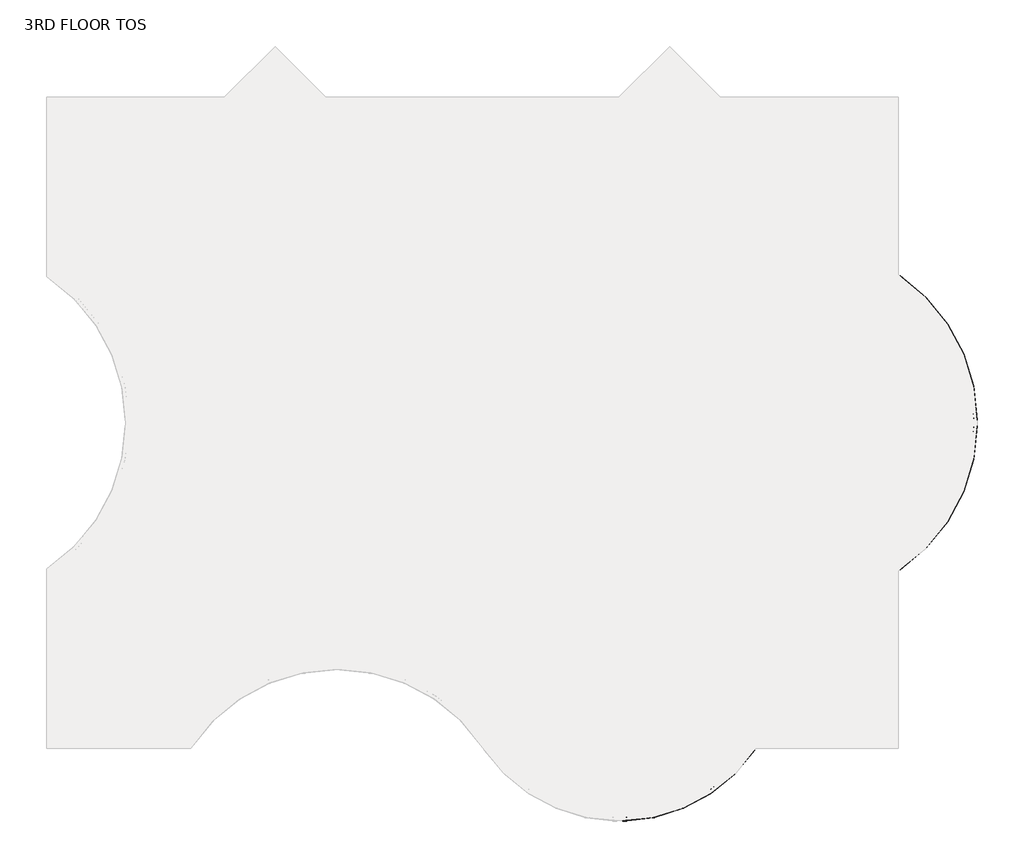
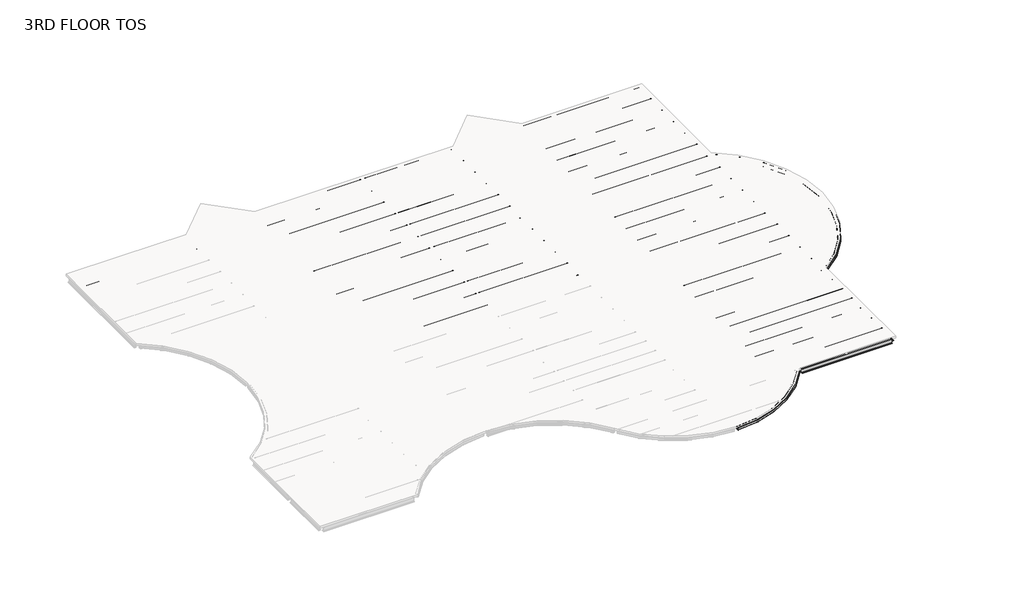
# One storey, part 2 of 2: 110 beams.
"""IFC4 building model written with IfcOpenShell, lengths in millimetres."""

from ifc_helpers import new_model, si_unit, origin, place, context, project, spatial, transform, mapped, element, save
from components import m_hss_square_hss203_2x203_2x9_5_28e91a4e, m_hss_square_hss203_2x203_2x9_5_f31329aa, m_hss_square_hss203_2x203_2x9_5_63507dff, ub_universal_beams_ub254x102x28_7812688d, ub_universal_beams_ub254x102x28_4a38c177, ub_universal_beams_ub305x165x40_c4d0385b, ub_universal_beams_ub305x165x40_19965e16, ub_universal_beams_ub305x165x40_d3abc31d, ub_universal_beams_ub305x165x40_0c73730f, ub_universal_beams_ub305x165x40_2a963f0c, ub_universal_beams_ub305x165x40_9ce7f2ee, ub_universal_beams_ub305x165x40_d184adfd, ub_universal_beams_ub305x165x40_bc7dc938, ub_universal_beams_ub305x165x40_b4233d25, ub_universal_beams_ub356x171x51_c708c058, ub_universal_beams_ub356x171x51_ef72dcdd, ub_universal_beams_ub356x171x51_10b3c54f, ub_universal_beams_ub356x171x51_4c9fd821, ub_universal_beams_ub356x171x51_d1a87c3c, ub_universal_beams_ub356x171x51_fa75724b, ub_universal_beams_ub356x171x51_68db896e, ub_universal_beams_ub356x171x51_c634c4a6, ub_universal_beams_ub356x171x51_995f1560, ub_universal_beams_ub356x171x51_dfc36663, ub_universal_beams_ub356x171x51_11d6b780, ub_universal_beams_ub356x171x51_76b2d20b, ub_universal_beams_ub356x171x51_145ecd4b, ub_universal_beams_ub356x171x51_c7dff8d2, ub_universal_beams_ub356x171x51_8a345439, ub_universal_beams_ub356x171x51_6da510e9, ub_universal_beams_ub356x171x51_e97f8d2e, ub_universal_beams_ub356x171x51_a38b99de, ub_universal_beams_ub356x171x51_d8f4cdde, ub_universal_beams_ub356x171x51_475301e6, ub_universal_beams_ub356x171x51_c03c70fb, ub_universal_beams_ub356x171x51_741bae58

model = new_model("IFC4")

# Units and contexts
model_context = context("Model", 3, world=origin())
ifc_project = project(units=[si_unit("LENGTHUNIT", "METRE", prefix="MILLI")], contexts=[model_context])

# Site, building, storey
site = spatial("IfcSite", under=ifc_project)
building = spatial("IfcBuilding", under=site)
storey = spatial("IfcBuildingStorey", under=building, Name="3RD FLOOR TOS", Elevation=13563.6)

# Beams
placement = place(None, origin())
m_hss_square_hss203_2x203_2x9_5_shape = m_hss_square_hss203_2x203_2x9_5_28e91a4e(model_context)
element("IfcBeam", 1, ObjectType="M_HSS Square : HSS203.2X203.2X9.5", at=placement, inside=storey, context=model_context, shape_type="MappedRepresentation", body=[
    mapped(m_hss_square_hss203_2x203_2x9_5_shape, transform((44027.575, 24539.575, 13462.1), x_axis=(0.8332810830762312, -0.5528495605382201, 0.0), y_axis=(0.5528495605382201, 0.8332810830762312, 0.0), z_axis=(0.0, 0.0, 1.0))),
])
m_hss_square_hss203_2x203_2x9_5_2_shape = m_hss_square_hss203_2x203_2x9_5_f31329aa(model_context)
element("IfcBeam", 2, ObjectType="M_HSS Square : HSS203.2X203.2X9.5", at=placement, inside=storey, context=model_context, shape_type="MappedRepresentation", body=[
    mapped(m_hss_square_hss203_2x203_2x9_5_2_shape, transform((44027.575, 9299.575, 13462.1), x_axis=(0.8332810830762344, 0.5528495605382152, 0.0), y_axis=(-0.5528495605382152, 0.8332810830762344, 0.0), z_axis=(0.0, 0.0, 1.0))),
])
m_hss_square_hss203_2x203_2x9_5_3_shape = m_hss_square_hss203_2x203_2x9_5_63507dff(model_context)
element("IfcBeam", 3, ObjectType="M_HSS Square : HSS203.2X203.2X9.5", at=placement, inside=storey, context=model_context, shape_type="MappedRepresentation", body=[
    mapped(m_hss_square_hss203_2x203_2x9_5_3_shape, transform((36716.575, 155.575, 13462.1), x_axis=(-0.5530174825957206, -0.8331696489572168, 0.0), y_axis=(0.8331696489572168, -0.5530174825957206, 0.0), z_axis=(0.0, 0.0, 1.0))),
])
ub_universal_beams_ub254x102x28_shape = ub_universal_beams_ub254x102x28_7812688d(model_context)
element("IfcBeam", 4, ObjectType="UB-Universal Beams : UB254x102x28", at=placement, inside=storey, context=model_context, shape_type="MappedRepresentation", body=[
    mapped(ub_universal_beams_ub254x102x28_shape, transform((10592.575, 34976.575, 13433.4), x_axis=(0.7071067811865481, 0.7071067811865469, 0.0), y_axis=(-0.7071067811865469, 0.7071067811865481, 0.0), z_axis=(0.0, 0.0, 1.0))),
])
element("IfcBeam", 5, ObjectType="UB-Universal Beams : UB254x102x28", at=placement, inside=storey, context=model_context, shape_type="MappedRepresentation", body=[
    mapped(ub_universal_beams_ub254x102x28_shape, transform((31004.575, 34976.575, 13433.4), x_axis=(0.7071067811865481, 0.7071067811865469, 0.0), y_axis=(-0.7071067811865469, 0.7071067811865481, 0.0), z_axis=(0.0, 0.0, 1.0))),
])
ub_universal_beams_ub254x102x28_2_shape = ub_universal_beams_ub254x102x28_4a38c177(model_context)
element("IfcBeam", 6, ObjectType="UB-Universal Beams : UB254x102x28", at=placement, inside=storey, context=model_context, shape_type="MappedRepresentation", body=[
    mapped(ub_universal_beams_ub254x102x28_2_shape, transform((13178.575, 34976.575, 13433.4), x_axis=(0.707106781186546, -0.707106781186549, 0.0), y_axis=(0.707106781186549, 0.707106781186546, 0.0), z_axis=(0.0, 0.0, 1.0))),
])
element("IfcBeam", 7, ObjectType="UB-Universal Beams : UB254x102x28", at=placement, inside=storey, context=model_context, shape_type="MappedRepresentation", body=[
    mapped(ub_universal_beams_ub254x102x28_2_shape, transform((33590.575, 34976.575, 13433.4), x_axis=(0.7071067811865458, -0.7071067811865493, 0.0), y_axis=(0.7071067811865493, 0.7071067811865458, 0.0), z_axis=(0.0, 0.0, 1.0))),
])
ub_universal_beams_ub305x165x40_shape = ub_universal_beams_ub305x165x40_c4d0385b(model_context)
element("IfcBeam", 8, ObjectType="UB-Universal Beams : UB305x165x40", at=placement, inside=storey, context=model_context, shape_type="MappedRepresentation", body=[
    mapped(ub_universal_beams_ub305x165x40_shape, transform((4727.575, 32159.575, 13411.9), x_axis=(1.0, 0.0, 0.0), y_axis=(0.0, 1.0, 0.0), z_axis=(0.0, 0.0, 1.0))),
])
element("IfcBeam", 9, ObjectType="UB-Universal Beams : UB305x165x40", at=placement, inside=storey, context=model_context, shape_type="MappedRepresentation", body=[
    mapped(ub_universal_beams_ub305x165x40_shape, transform((39455.575, 32159.575, 13411.9), x_axis=(1.0, 0.0, 0.0), y_axis=(0.0, 1.0, 0.0), z_axis=(0.0, 0.0, 1.0))),
])
element("IfcBeam", 10, ObjectType="UB-Universal Beams : UB305x165x40", at=placement, inside=storey, context=model_context, shape_type="MappedRepresentation", body=[
    mapped(ub_universal_beams_ub305x165x40_shape, transform((39455.575, 30635.575, 13411.9), x_axis=(1.0, 0.0, 0.0), y_axis=(0.0, 1.0, 0.0), z_axis=(0.0, 0.0, 1.0))),
])
element("IfcBeam", 11, ObjectType="UB-Universal Beams : UB305x165x40", at=placement, inside=storey, context=model_context, shape_type="MappedRepresentation", body=[
    mapped(ub_universal_beams_ub305x165x40_shape, transform((39455.575, 29111.575, 13411.9), x_axis=(1.0, 0.0, 0.0), y_axis=(0.0, 1.0, 0.0), z_axis=(0.0, 0.0, 1.0))),
])
element("IfcBeam", 12, ObjectType="UB-Universal Beams : UB305x165x40", at=placement, inside=storey, context=model_context, shape_type="MappedRepresentation", body=[
    mapped(ub_universal_beams_ub305x165x40_shape, transform((39455.575, 27587.575, 13411.9), x_axis=(1.0, 0.0, 0.0), y_axis=(0.0, 1.0, 0.0), z_axis=(0.0, 0.0, 1.0))),
])
element("IfcBeam", 13, ObjectType="UB-Universal Beams : UB305x165x40", at=placement, inside=storey, context=model_context, shape_type="MappedRepresentation", body=[
    mapped(ub_universal_beams_ub305x165x40_shape, transform((39455.575, 26063.575, 13411.9), x_axis=(1.0, 0.0, 0.0), y_axis=(0.0, 1.0, 0.0), z_axis=(0.0, 0.0, 1.0))),
])
element("IfcBeam", 14, ObjectType="UB-Universal Beams : UB305x165x40", at=placement, inside=storey, context=model_context, shape_type="MappedRepresentation", body=[
    mapped(ub_universal_beams_ub305x165x40_shape, transform((39455.575, 23015.575, 13411.9), x_axis=(1.0, 0.0, 0.0), y_axis=(0.0, 1.0, 0.0), z_axis=(0.0, 0.0, 1.0))),
])
element("IfcBeam", 15, ObjectType="UB-Universal Beams : UB305x165x40", at=placement, inside=storey, context=model_context, shape_type="MappedRepresentation", body=[
    mapped(ub_universal_beams_ub305x165x40_shape, transform((39455.575, 21491.575, 13411.9), x_axis=(1.0, 0.0, 0.0), y_axis=(0.0, 1.0, 0.0), z_axis=(0.0, 0.0, 1.0))),
])
element("IfcBeam", 16, ObjectType="UB-Universal Beams : UB305x165x40", at=placement, inside=storey, context=model_context, shape_type="MappedRepresentation", body=[
    mapped(ub_universal_beams_ub305x165x40_shape, transform((39455.575, 19967.575, 13411.9), x_axis=(1.0, 0.0, 0.0), y_axis=(0.0, 1.0, 0.0), z_axis=(0.0, 0.0, 1.0))),
])
element("IfcBeam", 17, ObjectType="UB-Universal Beams : UB305x165x40", at=placement, inside=storey, context=model_context, shape_type="MappedRepresentation", body=[
    mapped(ub_universal_beams_ub305x165x40_shape, transform((39455.575, 18443.575, 13411.9), x_axis=(1.0, 0.0, 0.0), y_axis=(0.0, 1.0, 0.0), z_axis=(0.0, 0.0, 1.0))),
])
element("IfcBeam", 18, ObjectType="UB-Universal Beams : UB305x165x40", at=placement, inside=storey, context=model_context, shape_type="MappedRepresentation", body=[
    mapped(ub_universal_beams_ub305x165x40_shape, transform((39455.575, 15395.575, 13411.9), x_axis=(1.0, 0.0, 0.0), y_axis=(0.0, 1.0, 0.0), z_axis=(0.0, 0.0, 1.0))),
])
element("IfcBeam", 19, ObjectType="UB-Universal Beams : UB305x165x40", at=placement, inside=storey, context=model_context, shape_type="MappedRepresentation", body=[
    mapped(ub_universal_beams_ub305x165x40_shape, transform((39455.575, 13871.575, 13411.9), x_axis=(1.0, 0.0, 0.0), y_axis=(0.0, 1.0, 0.0), z_axis=(0.0, 0.0, 1.0))),
])
element("IfcBeam", 20, ObjectType="UB-Universal Beams : UB305x165x40", at=placement, inside=storey, context=model_context, shape_type="MappedRepresentation", body=[
    mapped(ub_universal_beams_ub305x165x40_shape, transform((39455.575, 12347.575, 13411.9), x_axis=(1.0, 0.0, 0.0), y_axis=(0.0, 1.0, 0.0), z_axis=(0.0, 0.0, 1.0))),
])
element("IfcBeam", 21, ObjectType="UB-Universal Beams : UB305x165x40", at=placement, inside=storey, context=model_context, shape_type="MappedRepresentation", body=[
    mapped(ub_universal_beams_ub305x165x40_shape, transform((39455.575, 10823.575, 13411.9), x_axis=(1.0, 0.0, 0.0), y_axis=(0.0, 1.0, 0.0), z_axis=(0.0, 0.0, 1.0))),
])
element("IfcBeam", 22, ObjectType="UB-Universal Beams : UB305x165x40", at=placement, inside=storey, context=model_context, shape_type="MappedRepresentation", body=[
    mapped(ub_universal_beams_ub305x165x40_shape, transform((39455.575, 5508.325, 13411.9), x_axis=(-1.0, 0.0, 0.0), y_axis=(0.0, -1.0, 0.0), z_axis=(0.0, 0.0, 1.0))),
])
element("IfcBeam", 23, ObjectType="UB-Universal Beams : UB305x165x40", at=placement, inside=storey, context=model_context, shape_type="MappedRepresentation", body=[
    mapped(ub_universal_beams_ub305x165x40_shape, transform((39455.575, 6772.075, 13411.9), x_axis=(-1.0, 0.0, 0.0), y_axis=(0.0, -1.0, 0.0), z_axis=(0.0, 0.0, 1.0))),
])
element("IfcBeam", 24, ObjectType="UB-Universal Beams : UB305x165x40", at=placement, inside=storey, context=model_context, shape_type="MappedRepresentation", body=[
    mapped(ub_universal_beams_ub305x165x40_shape, transform((39455.575, 8035.825, 13411.9), x_axis=(-1.0, 0.0, 0.0), y_axis=(0.0, -1.0, 0.0), z_axis=(0.0, 0.0, 1.0))),
])
element("IfcBeam", 25, ObjectType="UB-Universal Beams : UB305x165x40", at=placement, inside=storey, context=model_context, shape_type="MappedRepresentation", body=[
    mapped(ub_universal_beams_ub305x165x40_shape, transform((39455.575, 1518.575, 13411.9), x_axis=(-1.0, 0.0, 0.0), y_axis=(0.0, -1.0, 0.0), z_axis=(0.0, 0.0, 1.0))),
])
element("IfcBeam", 26, ObjectType="UB-Universal Beams : UB305x165x40", at=placement, inside=storey, context=model_context, shape_type="MappedRepresentation", body=[
    mapped(ub_universal_beams_ub305x165x40_shape, transform((39455.575, 2881.575, 13411.9), x_axis=(-1.0, 0.0, 0.0), y_axis=(0.0, -1.0, 0.0), z_axis=(0.0, 0.0, 1.0))),
])
ub_universal_beams_ub305x165x40_2_shape = ub_universal_beams_ub305x165x40_19965e16(model_context)
element("IfcBeam", 27, ObjectType="UB-Universal Beams : UB305x165x40", at=placement, inside=storey, context=model_context, shape_type="MappedRepresentation", body=[
    mapped(ub_universal_beams_ub305x165x40_2_shape, transform((11885.575, 34803.325, 13411.9), x_axis=(1.0, 0.0, 0.0), y_axis=(0.0, 1.0, 0.0), z_axis=(0.0, 0.0, 1.0))),
])
element("IfcBeam", 28, ObjectType="UB-Universal Beams : UB305x165x40", at=placement, inside=storey, context=model_context, shape_type="MappedRepresentation", body=[
    mapped(ub_universal_beams_ub305x165x40_2_shape, transform((32297.575, 34803.325, 13411.9), x_axis=(1.0, 0.0, 0.0), y_axis=(0.0, 1.0, 0.0), z_axis=(0.0, 0.0, 1.0))),
])
ub_universal_beams_ub305x165x40_3_shape = ub_universal_beams_ub305x165x40_d3abc31d(model_context)
element("IfcBeam", 29, ObjectType="UB-Universal Beams : UB305x165x40", at=placement, inside=storey, context=model_context, shape_type="MappedRepresentation", body=[
    mapped(ub_universal_beams_ub305x165x40_3_shape, transform((11885.575, 33337.075, 13411.9), x_axis=(1.0, 0.0, 0.0), y_axis=(0.0, 1.0, 0.0), z_axis=(0.0, 0.0, 1.0))),
])
element("IfcBeam", 30, ObjectType="UB-Universal Beams : UB305x165x40", at=placement, inside=storey, context=model_context, shape_type="MappedRepresentation", body=[
    mapped(ub_universal_beams_ub305x165x40_3_shape, transform((11885.575, 31870.825, 13411.9), x_axis=(1.0, 0.0, 0.0), y_axis=(0.0, 1.0, 0.0), z_axis=(0.0, 0.0, 1.0))),
])
element("IfcBeam", 31, ObjectType="UB-Universal Beams : UB305x165x40", at=placement, inside=storey, context=model_context, shape_type="MappedRepresentation", body=[
    mapped(ub_universal_beams_ub305x165x40_3_shape, transform((11885.575, 30404.575, 13411.9), x_axis=(1.0, 0.0, 0.0), y_axis=(0.0, 1.0, 0.0), z_axis=(0.0, 0.0, 1.0))),
])
element("IfcBeam", 32, ObjectType="UB-Universal Beams : UB305x165x40", at=placement, inside=storey, context=model_context, shape_type="MappedRepresentation", body=[
    mapped(ub_universal_beams_ub305x165x40_3_shape, transform((32297.575, 33337.075, 13411.9), x_axis=(1.0, 0.0, 0.0), y_axis=(0.0, 1.0, 0.0), z_axis=(0.0, 0.0, 1.0))),
])
element("IfcBeam", 33, ObjectType="UB-Universal Beams : UB305x165x40", at=placement, inside=storey, context=model_context, shape_type="MappedRepresentation", body=[
    mapped(ub_universal_beams_ub305x165x40_3_shape, transform((32297.575, 31870.825, 13411.9), x_axis=(1.0, 0.0, 0.0), y_axis=(0.0, 1.0, 0.0), z_axis=(0.0, 0.0, 1.0))),
])
element("IfcBeam", 34, ObjectType="UB-Universal Beams : UB305x165x40", at=placement, inside=storey, context=model_context, shape_type="MappedRepresentation", body=[
    mapped(ub_universal_beams_ub305x165x40_3_shape, transform((32297.575, 30404.575, 13411.9), x_axis=(1.0, 0.0, 0.0), y_axis=(0.0, 1.0, 0.0), z_axis=(0.0, 0.0, 1.0))),
])
element("IfcBeam", 35, ObjectType="UB-Universal Beams : UB305x165x40", at=placement, inside=storey, context=model_context, shape_type="MappedRepresentation", body=[
    mapped(ub_universal_beams_ub305x165x40_3_shape, transform((32297.575, 28938.325, 13411.9), x_axis=(1.0, 0.0, 0.0), y_axis=(0.0, 1.0, 0.0), z_axis=(0.0, 0.0, 1.0))),
])
element("IfcBeam", 36, ObjectType="UB-Universal Beams : UB305x165x40", at=placement, inside=storey, context=model_context, shape_type="MappedRepresentation", body=[
    mapped(ub_universal_beams_ub305x165x40_3_shape, transform((32297.575, 27472.075, 13411.9), x_axis=(1.0, 0.0, 0.0), y_axis=(0.0, 1.0, 0.0), z_axis=(0.0, 0.0, 1.0))),
])
element("IfcBeam", 37, ObjectType="UB-Universal Beams : UB305x165x40", at=placement, inside=storey, context=model_context, shape_type="MappedRepresentation", body=[
    mapped(ub_universal_beams_ub305x165x40_3_shape, transform((32297.575, 26005.825, 13411.9), x_axis=(1.0, 0.0, 0.0), y_axis=(0.0, 1.0, 0.0), z_axis=(0.0, 0.0, 1.0))),
])
element("IfcBeam", 38, ObjectType="UB-Universal Beams : UB305x165x40", at=placement, inside=storey, context=model_context, shape_type="MappedRepresentation", body=[
    mapped(ub_universal_beams_ub305x165x40_3_shape, transform((32297.575, 1518.575, 13411.9), x_axis=(-1.0, 0.0, 0.0), y_axis=(0.0, -1.0, 0.0), z_axis=(0.0, 0.0, 1.0))),
])
element("IfcBeam", 39, ObjectType="UB-Universal Beams : UB305x165x40", at=placement, inside=storey, context=model_context, shape_type="MappedRepresentation", body=[
    mapped(ub_universal_beams_ub305x165x40_3_shape, transform((32297.575, 2881.575, 13411.9), x_axis=(-1.0, 0.0, 0.0), y_axis=(0.0, -1.0, 0.0), z_axis=(0.0, 0.0, 1.0))),
])
element("IfcBeam", 40, ObjectType="UB-Universal Beams : UB305x165x40", at=placement, inside=storey, context=model_context, shape_type="MappedRepresentation", body=[
    mapped(ub_universal_beams_ub305x165x40_3_shape, transform((32297.575, 5508.325, 13411.9), x_axis=(-1.0, 0.0, 0.0), y_axis=(0.0, -1.0, 0.0), z_axis=(0.0, 0.0, 1.0))),
])
element("IfcBeam", 41, ObjectType="UB-Universal Beams : UB305x165x40", at=placement, inside=storey, context=model_context, shape_type="MappedRepresentation", body=[
    mapped(ub_universal_beams_ub305x165x40_3_shape, transform((32297.575, 6772.075, 13411.9), x_axis=(-1.0, 0.0, 0.0), y_axis=(0.0, -1.0, 0.0), z_axis=(0.0, 0.0, 1.0))),
])
element("IfcBeam", 42, ObjectType="UB-Universal Beams : UB305x165x40", at=placement, inside=storey, context=model_context, shape_type="MappedRepresentation", body=[
    mapped(ub_universal_beams_ub305x165x40_3_shape, transform((32297.575, 8035.825, 13411.9), x_axis=(-1.0, 0.0, 0.0), y_axis=(0.0, -1.0, 0.0), z_axis=(0.0, 0.0, 1.0))),
])
element("IfcBeam", 43, ObjectType="UB-Universal Beams : UB305x165x40", at=placement, inside=storey, context=model_context, shape_type="MappedRepresentation", body=[
    mapped(ub_universal_beams_ub305x165x40_3_shape, transform((32297.575, 15395.575, 13411.9), x_axis=(1.0, 0.0, 0.0), y_axis=(0.0, 1.0, 0.0), z_axis=(0.0, 0.0, 1.0))),
])
element("IfcBeam", 44, ObjectType="UB-Universal Beams : UB305x165x40", at=placement, inside=storey, context=model_context, shape_type="MappedRepresentation", body=[
    mapped(ub_universal_beams_ub305x165x40_3_shape, transform((32297.575, 13871.575, 13411.9), x_axis=(1.0, 0.0, 0.0), y_axis=(0.0, 1.0, 0.0), z_axis=(0.0, 0.0, 1.0))),
])
element("IfcBeam", 45, ObjectType="UB-Universal Beams : UB305x165x40", at=placement, inside=storey, context=model_context, shape_type="MappedRepresentation", body=[
    mapped(ub_universal_beams_ub305x165x40_3_shape, transform((32297.575, 12347.575, 13411.9), x_axis=(1.0, 0.0, 0.0), y_axis=(0.0, 1.0, 0.0), z_axis=(0.0, 0.0, 1.0))),
])
element("IfcBeam", 46, ObjectType="UB-Universal Beams : UB305x165x40", at=placement, inside=storey, context=model_context, shape_type="MappedRepresentation", body=[
    mapped(ub_universal_beams_ub305x165x40_3_shape, transform((32297.575, 10823.575, 13411.9), x_axis=(1.0, 0.0, 0.0), y_axis=(0.0, 1.0, 0.0), z_axis=(0.0, 0.0, 1.0))),
])
element("IfcBeam", 47, ObjectType="UB-Universal Beams : UB305x165x40", at=placement, inside=storey, context=model_context, shape_type="MappedRepresentation", body=[
    mapped(ub_universal_beams_ub305x165x40_3_shape, transform((32297.575, 23015.575, 13411.9), x_axis=(1.0, 0.0, 0.0), y_axis=(0.0, 1.0, 0.0), z_axis=(0.0, 0.0, 1.0))),
])
element("IfcBeam", 48, ObjectType="UB-Universal Beams : UB305x165x40", at=placement, inside=storey, context=model_context, shape_type="MappedRepresentation", body=[
    mapped(ub_universal_beams_ub305x165x40_3_shape, transform((32297.575, 21491.575, 13411.9), x_axis=(1.0, 0.0, 0.0), y_axis=(0.0, 1.0, 0.0), z_axis=(0.0, 0.0, 1.0))),
])
element("IfcBeam", 49, ObjectType="UB-Universal Beams : UB305x165x40", at=placement, inside=storey, context=model_context, shape_type="MappedRepresentation", body=[
    mapped(ub_universal_beams_ub305x165x40_3_shape, transform((32297.575, 19967.575, 13411.9), x_axis=(1.0, 0.0, 0.0), y_axis=(0.0, 1.0, 0.0), z_axis=(0.0, 0.0, 1.0))),
])
element("IfcBeam", 50, ObjectType="UB-Universal Beams : UB305x165x40", at=placement, inside=storey, context=model_context, shape_type="MappedRepresentation", body=[
    mapped(ub_universal_beams_ub305x165x40_3_shape, transform((32297.575, 18443.575, 13411.9), x_axis=(1.0, 0.0, 0.0), y_axis=(0.0, 1.0, 0.0), z_axis=(0.0, 0.0, 1.0))),
])
ub_universal_beams_ub305x165x40_4_shape = ub_universal_beams_ub305x165x40_0c73730f(model_context)
element("IfcBeam", 51, ObjectType="UB-Universal Beams : UB305x165x40", at=placement, inside=storey, context=model_context, shape_type="MappedRepresentation", body=[
    mapped(ub_universal_beams_ub305x165x40_4_shape, transform((18591.075, 32159.575, 13411.9), x_axis=(1.0, 0.0, 0.0), y_axis=(0.0, 1.0, 0.0), z_axis=(0.0, 0.0, 1.0))),
])
element("IfcBeam", 52, ObjectType="UB-Universal Beams : UB305x165x40", at=placement, inside=storey, context=model_context, shape_type="MappedRepresentation", body=[
    mapped(ub_universal_beams_ub305x165x40_4_shape, transform((18591.075, 30635.575, 13411.9), x_axis=(1.0, 0.0, 0.0), y_axis=(0.0, 1.0, 0.0), z_axis=(0.0, 0.0, 1.0))),
])
element("IfcBeam", 53, ObjectType="UB-Universal Beams : UB305x165x40", at=placement, inside=storey, context=model_context, shape_type="MappedRepresentation", body=[
    mapped(ub_universal_beams_ub305x165x40_4_shape, transform((18591.075, 29111.575, 13411.9), x_axis=(1.0, 0.0, 0.0), y_axis=(0.0, 1.0, 0.0), z_axis=(0.0, 0.0, 1.0))),
])
element("IfcBeam", 54, ObjectType="UB-Universal Beams : UB305x165x40", at=placement, inside=storey, context=model_context, shape_type="MappedRepresentation", body=[
    mapped(ub_universal_beams_ub305x165x40_4_shape, transform((18591.075, 27587.575, 13411.9), x_axis=(1.0, 0.0, 0.0), y_axis=(0.0, 1.0, 0.0), z_axis=(0.0, 0.0, 1.0))),
])
element("IfcBeam", 55, ObjectType="UB-Universal Beams : UB305x165x40", at=placement, inside=storey, context=model_context, shape_type="MappedRepresentation", body=[
    mapped(ub_universal_beams_ub305x165x40_4_shape, transform((18591.075, 26063.575, 13411.9), x_axis=(1.0, 0.0, 0.0), y_axis=(0.0, 1.0, 0.0), z_axis=(0.0, 0.0, 1.0))),
])
element("IfcBeam", 56, ObjectType="UB-Universal Beams : UB305x165x40", at=placement, inside=storey, context=model_context, shape_type="MappedRepresentation", body=[
    mapped(ub_universal_beams_ub305x165x40_4_shape, transform((18591.075, 23015.575, 13411.9), x_axis=(1.0, 0.0, 0.0), y_axis=(0.0, 1.0, 0.0), z_axis=(0.0, 0.0, 1.0))),
])
element("IfcBeam", 57, ObjectType="UB-Universal Beams : UB305x165x40", at=placement, inside=storey, context=model_context, shape_type="MappedRepresentation", body=[
    mapped(ub_universal_beams_ub305x165x40_4_shape, transform((18591.075, 21491.575, 13411.9), x_axis=(1.0, 0.0, 0.0), y_axis=(0.0, 1.0, 0.0), z_axis=(0.0, 0.0, 1.0))),
])
element("IfcBeam", 58, ObjectType="UB-Universal Beams : UB305x165x40", at=placement, inside=storey, context=model_context, shape_type="MappedRepresentation", body=[
    mapped(ub_universal_beams_ub305x165x40_4_shape, transform((18591.075, 19967.575, 13411.9), x_axis=(1.0, 0.0, 0.0), y_axis=(0.0, 1.0, 0.0), z_axis=(0.0, 0.0, 1.0))),
])
element("IfcBeam", 59, ObjectType="UB-Universal Beams : UB305x165x40", at=placement, inside=storey, context=model_context, shape_type="MappedRepresentation", body=[
    mapped(ub_universal_beams_ub305x165x40_4_shape, transform((18591.075, 18443.575, 13411.9), x_axis=(1.0, 0.0, 0.0), y_axis=(0.0, 1.0, 0.0), z_axis=(0.0, 0.0, 1.0))),
])
ub_universal_beams_ub305x165x40_5_shape = ub_universal_beams_ub305x165x40_2a963f0c(model_context)
element("IfcBeam", 60, ObjectType="UB-Universal Beams : UB305x165x40", at=placement, inside=storey, context=model_context, shape_type="MappedRepresentation", body=[
    mapped(ub_universal_beams_ub305x165x40_5_shape, transform((26211.075, 32159.575, 13411.9), x_axis=(1.0, 0.0, 0.0), y_axis=(0.0, 1.0, 0.0), z_axis=(0.0, 0.0, 1.0))),
])
element("IfcBeam", 61, ObjectType="UB-Universal Beams : UB305x165x40", at=placement, inside=storey, context=model_context, shape_type="MappedRepresentation", body=[
    mapped(ub_universal_beams_ub305x165x40_5_shape, transform((26211.075, 30635.575, 13411.9), x_axis=(1.0, 0.0, 0.0), y_axis=(0.0, 1.0, 0.0), z_axis=(0.0, 0.0, 1.0))),
])
element("IfcBeam", 62, ObjectType="UB-Universal Beams : UB305x165x40", at=placement, inside=storey, context=model_context, shape_type="MappedRepresentation", body=[
    mapped(ub_universal_beams_ub305x165x40_5_shape, transform((26211.075, 29111.575, 13411.9), x_axis=(1.0, 0.0, 0.0), y_axis=(0.0, 1.0, 0.0), z_axis=(0.0, 0.0, 1.0))),
])
element("IfcBeam", 63, ObjectType="UB-Universal Beams : UB305x165x40", at=placement, inside=storey, context=model_context, shape_type="MappedRepresentation", body=[
    mapped(ub_universal_beams_ub305x165x40_5_shape, transform((26211.075, 27587.575, 13411.9), x_axis=(1.0, 0.0, 0.0), y_axis=(0.0, 1.0, 0.0), z_axis=(0.0, 0.0, 1.0))),
])
element("IfcBeam", 64, ObjectType="UB-Universal Beams : UB305x165x40", at=placement, inside=storey, context=model_context, shape_type="MappedRepresentation", body=[
    mapped(ub_universal_beams_ub305x165x40_5_shape, transform((26211.075, 26063.575, 13411.9), x_axis=(1.0, 0.0, 0.0), y_axis=(0.0, 1.0, 0.0), z_axis=(0.0, 0.0, 1.0))),
])
element("IfcBeam", 65, ObjectType="UB-Universal Beams : UB305x165x40", at=placement, inside=storey, context=model_context, shape_type="MappedRepresentation", body=[
    mapped(ub_universal_beams_ub305x165x40_5_shape, transform((26211.075, 23015.575, 13411.9), x_axis=(1.0, 0.0, 0.0), y_axis=(0.0, 1.0, 0.0), z_axis=(0.0, 0.0, 1.0))),
])
element("IfcBeam", 66, ObjectType="UB-Universal Beams : UB305x165x40", at=placement, inside=storey, context=model_context, shape_type="MappedRepresentation", body=[
    mapped(ub_universal_beams_ub305x165x40_5_shape, transform((26211.075, 21491.575, 13411.9), x_axis=(1.0, 0.0, 0.0), y_axis=(0.0, 1.0, 0.0), z_axis=(0.0, 0.0, 1.0))),
])
element("IfcBeam", 67, ObjectType="UB-Universal Beams : UB305x165x40", at=placement, inside=storey, context=model_context, shape_type="MappedRepresentation", body=[
    mapped(ub_universal_beams_ub305x165x40_5_shape, transform((26211.075, 19967.575, 13411.9), x_axis=(1.0, 0.0, 0.0), y_axis=(0.0, 1.0, 0.0), z_axis=(0.0, 0.0, 1.0))),
])
element("IfcBeam", 68, ObjectType="UB-Universal Beams : UB305x165x40", at=placement, inside=storey, context=model_context, shape_type="MappedRepresentation", body=[
    mapped(ub_universal_beams_ub305x165x40_5_shape, transform((26211.075, 18443.575, 13411.9), x_axis=(1.0, 0.0, 0.0), y_axis=(0.0, 1.0, 0.0), z_axis=(0.0, 0.0, 1.0))),
])
ub_universal_beams_ub305x165x40_6_shape = ub_universal_beams_ub305x165x40_9ce7f2ee(model_context)
element("IfcBeam", 69, ObjectType="UB-Universal Beams : UB305x165x40", at=placement, inside=storey, context=model_context, shape_type="MappedRepresentation", body=[
    mapped(ub_universal_beams_ub305x165x40_6_shape, transform((44907.9405309, 23015.575, 13411.9), x_axis=(1.0, 0.0, 0.0), y_axis=(0.0, 1.0, 0.0), z_axis=(0.0, 0.0, 1.0))),
])
element("IfcBeam", 70, ObjectType="UB-Universal Beams : UB305x165x40", at=placement, inside=storey, context=model_context, shape_type="MappedRepresentation", body=[
    mapped(ub_universal_beams_ub305x165x40_6_shape, transform((44907.9405309, 10823.575, 13411.9), x_axis=(1.0, 0.0, 0.0), y_axis=(0.0, 1.0, 0.0), z_axis=(0.0, 0.0, 1.0))),
])
ub_universal_beams_ub305x165x40_7_shape = ub_universal_beams_ub305x165x40_d184adfd(model_context)
element("IfcBeam", 71, ObjectType="UB-Universal Beams : UB305x165x40", at=placement, inside=storey, context=model_context, shape_type="MappedRepresentation", body=[
    mapped(ub_universal_beams_ub305x165x40_7_shape, transform((45459.5874928, 21491.575, 13411.9), x_axis=(1.0, 0.0, 0.0), y_axis=(0.0, 1.0, 0.0), z_axis=(0.0, 0.0, 1.0))),
])
element("IfcBeam", 72, ObjectType="UB-Universal Beams : UB305x165x40", at=placement, inside=storey, context=model_context, shape_type="MappedRepresentation", body=[
    mapped(ub_universal_beams_ub305x165x40_7_shape, transform((45459.5874928, 12347.575, 13411.9), x_axis=(1.0, 0.0, 0.0), y_axis=(0.0, 1.0, 0.0), z_axis=(0.0, 0.0, 1.0))),
])
ub_universal_beams_ub305x165x40_8_shape = ub_universal_beams_ub305x165x40_bc7dc938(model_context)
element("IfcBeam", 73, ObjectType="UB-Universal Beams : UB305x165x40", at=placement, inside=storey, context=model_context, shape_type="MappedRepresentation", body=[
    mapped(ub_universal_beams_ub305x165x40_8_shape, transform((45810.6153272, 19967.575, 13411.9), x_axis=(1.0, 0.0, 0.0), y_axis=(0.0, 1.0, 0.0), z_axis=(0.0, 0.0, 1.0))),
])
element("IfcBeam", 74, ObjectType="UB-Universal Beams : UB305x165x40", at=placement, inside=storey, context=model_context, shape_type="MappedRepresentation", body=[
    mapped(ub_universal_beams_ub305x165x40_8_shape, transform((45810.6153272, 13871.575, 13411.9), x_axis=(1.0, 0.0, 0.0), y_axis=(0.0, 1.0, 0.0), z_axis=(0.0, 0.0, 1.0))),
])
ub_universal_beams_ub305x165x40_9_shape = ub_universal_beams_ub305x165x40_b4233d25(model_context)
element("IfcBeam", 75, ObjectType="UB-Universal Beams : UB305x165x40", at=placement, inside=storey, context=model_context, shape_type="MappedRepresentation", body=[
    mapped(ub_universal_beams_ub305x165x40_9_shape, transform((46008.1318611, 18443.575, 13411.9), x_axis=(1.0, 0.0, 0.0), y_axis=(0.0, 1.0, 0.0), z_axis=(0.0, 0.0, 1.0))),
])
element("IfcBeam", 76, ObjectType="UB-Universal Beams : UB305x165x40", at=placement, inside=storey, context=model_context, shape_type="MappedRepresentation", body=[
    mapped(ub_universal_beams_ub305x165x40_9_shape, transform((46008.1318611, 15395.575, 13411.9), x_axis=(1.0, 0.0, 0.0), y_axis=(0.0, 1.0, 0.0), z_axis=(0.0, 0.0, 1.0))),
])
ub_universal_beams_ub356x171x51_shape = ub_universal_beams_ub356x171x51_c708c058(model_context)
element("IfcBeam", 77, ObjectType="UB-Universal Beams : UB356x171x51", at=placement, inside=storey, context=model_context, shape_type="MappedRepresentation", body=[
    mapped(ub_universal_beams_ub356x171x51_shape, transform((2200.075, 33683.575, 13386.1), x_axis=(1.0, 0.0, 0.0), y_axis=(0.0, 1.0, 0.0), z_axis=(0.0, 0.0, 1.0))),
])
ub_universal_beams_ub356x171x51_2_shape = ub_universal_beams_ub356x171x51_ef72dcdd(model_context)
element("IfcBeam", 78, ObjectType="UB-Universal Beams : UB356x171x51", at=placement, inside=storey, context=model_context, shape_type="MappedRepresentation", body=[
    mapped(ub_universal_beams_ub356x171x51_2_shape, transform((6772.075, 33683.575, 13386.1), x_axis=(1.0, 0.0, 0.0), y_axis=(0.0, 1.0, 0.0), z_axis=(0.0, 0.0, 1.0))),
])
element("IfcBeam", 79, ObjectType="UB-Universal Beams : UB356x171x51", at=placement, inside=storey, context=model_context, shape_type="MappedRepresentation", body=[
    mapped(ub_universal_beams_ub356x171x51_2_shape, transform((34883.575, 6772.075, 13386.1), x_axis=(0.0, -1.0, 0.0), y_axis=(1.0, 0.0, 0.0), z_axis=(0.0, 0.0, 1.0))),
])
ub_universal_beams_ub356x171x51_3_shape = ub_universal_beams_ub356x171x51_10b3c54f(model_context)
element("IfcBeam", 80, ObjectType="UB-Universal Beams : UB356x171x51", at=placement, inside=storey, context=model_context, shape_type="MappedRepresentation", body=[
    mapped(ub_universal_beams_ub356x171x51_3_shape, transform((18591.075, 33683.575, 13386.1), x_axis=(1.0, 0.0, 0.0), y_axis=(0.0, 1.0, 0.0), z_axis=(0.0, 0.0, 1.0))),
])
ub_universal_beams_ub356x171x51_4_shape = ub_universal_beams_ub356x171x51_4c9fd821(model_context)
element("IfcBeam", 81, ObjectType="UB-Universal Beams : UB356x171x51", at=placement, inside=storey, context=model_context, shape_type="MappedRepresentation", body=[
    mapped(ub_universal_beams_ub356x171x51_4_shape, transform((26211.075, 33683.575, 13386.1), x_axis=(1.0, 0.0, 0.0), y_axis=(0.0, 1.0, 0.0), z_axis=(0.0, 0.0, 1.0))),
])
ub_universal_beams_ub356x171x51_5_shape = ub_universal_beams_ub356x171x51_d1a87c3c(model_context)
element("IfcBeam", 82, ObjectType="UB-Universal Beams : UB356x171x51", at=placement, inside=storey, context=model_context, shape_type="MappedRepresentation", body=[
    mapped(ub_universal_beams_ub356x171x51_5_shape, transform((39455.575, 33683.575, 13386.1), x_axis=(1.0, 0.0, 0.0), y_axis=(0.0, 1.0, 0.0), z_axis=(0.0, 0.0, 1.0))),
])
ub_universal_beams_ub356x171x51_6_shape = ub_universal_beams_ub356x171x51_fa75724b(model_context)
element("IfcBeam", 83, ObjectType="UB-Universal Beams : UB356x171x51", at=placement, inside=storey, context=model_context, shape_type="MappedRepresentation", body=[
    mapped(ub_universal_beams_ub356x171x51_6_shape, transform((44027.575, 29111.575, 13386.1), x_axis=(0.0, -1.0, 0.0), y_axis=(1.0, 0.0, 0.0), z_axis=(0.0, 0.0, 1.0))),
])
ub_universal_beams_ub356x171x51_7_shape = ub_universal_beams_ub356x171x51_68db896e(model_context)
element("IfcBeam", 84, ObjectType="UB-Universal Beams : UB356x171x51", at=placement, inside=storey, context=model_context, shape_type="MappedRepresentation", body=[
    mapped(ub_universal_beams_ub356x171x51_7_shape, transform((44027.575, 6772.075, 13386.1), x_axis=(0.0, -1.0, 0.0), y_axis=(1.0, 0.0, 0.0), z_axis=(0.0, 0.0, 1.0))),
])
ub_universal_beams_ub356x171x51_8_shape = ub_universal_beams_ub356x171x51_c634c4a6(model_context)
element("IfcBeam", 85, ObjectType="UB-Universal Beams : UB356x171x51", at=placement, inside=storey, context=model_context, shape_type="MappedRepresentation", body=[
    mapped(ub_universal_beams_ub356x171x51_8_shape, transform((44027.575, 2200.075, 13386.1), x_axis=(0.0, -1.0, 0.0), y_axis=(1.0, 0.0, 0.0), z_axis=(0.0, 0.0, 1.0))),
])
ub_universal_beams_ub356x171x51_9_shape = ub_universal_beams_ub356x171x51_995f1560(model_context)
element("IfcBeam", 86, ObjectType="UB-Universal Beams : UB356x171x51", at=placement, inside=storey, context=model_context, shape_type="MappedRepresentation", body=[
    mapped(ub_universal_beams_ub356x171x51_9_shape, transform((40372.075, 155.575, 13386.1), x_axis=(-1.0, 0.0, 0.0), y_axis=(0.0, -1.0, 0.0), z_axis=(0.0, 0.0, 1.0))),
])
ub_universal_beams_ub356x171x51_10_shape = ub_universal_beams_ub356x171x51_dfc36663(model_context)
element("IfcBeam", 87, ObjectType="UB-Universal Beams : UB356x171x51", at=placement, inside=storey, context=model_context, shape_type="MappedRepresentation", body=[
    mapped(ub_universal_beams_ub356x171x51_10_shape, transform((46072.075, 16919.575, 13386.1), x_axis=(1.0, 0.0, 0.0), y_axis=(0.0, 1.0, 0.0), z_axis=(0.0, 0.0, 1.0))),
])
ub_universal_beams_ub356x171x51_11_shape = ub_universal_beams_ub356x171x51_11d6b780(model_context)
element("IfcBeam", 88, ObjectType="UB-Universal Beams : UB356x171x51", at=placement, inside=storey, context=model_context, shape_type="MappedRepresentation", body=[
    mapped(ub_universal_beams_ub356x171x51_11_shape, transform((32297.575, 24539.575, 13386.1), x_axis=(1.0, 0.0, 0.0), y_axis=(0.0, 1.0, 0.0), z_axis=(0.0, 0.0, 1.0))),
])
element("IfcBeam", 89, ObjectType="UB-Universal Beams : UB356x171x51", at=placement, inside=storey, context=model_context, shape_type="MappedRepresentation", body=[
    mapped(ub_universal_beams_ub356x171x51_11_shape, transform((32297.575, 9299.575, 13386.1), x_axis=(-1.0, 0.0, 0.0), y_axis=(0.0, -1.0, 0.0), z_axis=(0.0, 0.0, 1.0))),
])
element("IfcBeam", 90, ObjectType="UB-Universal Beams : UB356x171x51", at=placement, inside=storey, context=model_context, shape_type="MappedRepresentation", body=[
    mapped(ub_universal_beams_ub356x171x51_11_shape, transform((32297.575, 16919.575, 13386.1), x_axis=(1.0, 0.0, 0.0), y_axis=(0.0, 1.0, 0.0), z_axis=(0.0, 0.0, 1.0))),
])
element("IfcBeam", 91, ObjectType="UB-Universal Beams : UB356x171x51", at=placement, inside=storey, context=model_context, shape_type="MappedRepresentation", body=[
    mapped(ub_universal_beams_ub356x171x51_11_shape, transform((32297.575, 4244.575, 13386.1), x_axis=(-1.0, 0.0, 0.0), y_axis=(0.0, -1.0, 0.0), z_axis=(0.0, 0.0, 1.0))),
])
ub_universal_beams_ub356x171x51_12_shape = ub_universal_beams_ub356x171x51_76b2d20b(model_context)
element("IfcBeam", 92, ObjectType="UB-Universal Beams : UB356x171x51", at=placement, inside=storey, context=model_context, shape_type="MappedRepresentation", body=[
    mapped(ub_universal_beams_ub356x171x51_12_shape, transform((18591.075, 24539.575, 13386.1), x_axis=(1.0, 0.0, 0.0), y_axis=(0.0, 1.0, 0.0), z_axis=(0.0, 0.0, 1.0))),
])
element("IfcBeam", 93, ObjectType="UB-Universal Beams : UB356x171x51", at=placement, inside=storey, context=model_context, shape_type="MappedRepresentation", body=[
    mapped(ub_universal_beams_ub356x171x51_12_shape, transform((18591.075, 16919.575, 13386.1), x_axis=(1.0, 0.0, 0.0), y_axis=(0.0, 1.0, 0.0), z_axis=(0.0, 0.0, 1.0))),
])
ub_universal_beams_ub356x171x51_13_shape = ub_universal_beams_ub356x171x51_145ecd4b(model_context)
element("IfcBeam", 94, ObjectType="UB-Universal Beams : UB356x171x51", at=placement, inside=storey, context=model_context, shape_type="MappedRepresentation", body=[
    mapped(ub_universal_beams_ub356x171x51_13_shape, transform((26211.075, 24539.575, 13386.1), x_axis=(1.0, 0.0, 0.0), y_axis=(0.0, 1.0, 0.0), z_axis=(0.0, 0.0, 1.0))),
])
element("IfcBeam", 95, ObjectType="UB-Universal Beams : UB356x171x51", at=placement, inside=storey, context=model_context, shape_type="MappedRepresentation", body=[
    mapped(ub_universal_beams_ub356x171x51_13_shape, transform((26211.075, 16919.575, 13386.1), x_axis=(1.0, 0.0, 0.0), y_axis=(0.0, 1.0, 0.0), z_axis=(0.0, 0.0, 1.0))),
])
ub_universal_beams_ub356x171x51_14_shape = ub_universal_beams_ub356x171x51_c7dff8d2(model_context)
element("IfcBeam", 96, ObjectType="UB-Universal Beams : UB356x171x51", at=placement, inside=storey, context=model_context, shape_type="MappedRepresentation", body=[
    mapped(ub_universal_beams_ub356x171x51_14_shape, transform((39455.575, 24539.575, 13386.1), x_axis=(1.0, 0.0, 0.0), y_axis=(0.0, 1.0, 0.0), z_axis=(0.0, 0.0, 1.0))),
])
ub_universal_beams_ub356x171x51_15_shape = ub_universal_beams_ub356x171x51_8a345439(model_context)
element("IfcBeam", 97, ObjectType="UB-Universal Beams : UB356x171x51", at=placement, inside=storey, context=model_context, shape_type="MappedRepresentation", body=[
    mapped(ub_universal_beams_ub356x171x51_15_shape, transform((44027.575, 20729.575, 13386.1), x_axis=(0.0, -1.0, 0.0), y_axis=(1.0, 0.0, 0.0), z_axis=(0.0, 0.0, 1.0))),
])
ub_universal_beams_ub356x171x51_16_shape = ub_universal_beams_ub356x171x51_6da510e9(model_context)
element("IfcBeam", 98, ObjectType="UB-Universal Beams : UB356x171x51", at=placement, inside=storey, context=model_context, shape_type="MappedRepresentation", body=[
    mapped(ub_universal_beams_ub356x171x51_16_shape, transform((44027.575, 13109.575, 13386.1), x_axis=(0.0, -1.0, 0.0), y_axis=(1.0, 0.0, 0.0), z_axis=(0.0, 0.0, 1.0))),
])
ub_universal_beams_ub356x171x51_17_shape = ub_universal_beams_ub356x171x51_e97f8d2e(model_context)
element("IfcBeam", 99, ObjectType="UB-Universal Beams : UB356x171x51", at=placement, inside=storey, context=model_context, shape_type="MappedRepresentation", body=[
    mapped(ub_universal_beams_ub356x171x51_17_shape, transform((39455.575, 9299.575, 13386.1), x_axis=(-1.0, 0.0, 0.0), y_axis=(0.0, -1.0, 0.0), z_axis=(0.0, 0.0, 1.0))),
])
ub_universal_beams_ub356x171x51_18_shape = ub_universal_beams_ub356x171x51_a38b99de(model_context)
element("IfcBeam", 100, ObjectType="UB-Universal Beams : UB356x171x51", at=placement, inside=storey, context=model_context, shape_type="MappedRepresentation", body=[
    mapped(ub_universal_beams_ub356x171x51_18_shape, transform((34883.575, 20729.575, 13386.1), x_axis=(0.0, -1.0, 0.0), y_axis=(1.0, 0.0, 0.0), z_axis=(0.0, 0.0, 1.0))),
])
element("IfcBeam", 101, ObjectType="UB-Universal Beams : UB356x171x51", at=placement, inside=storey, context=model_context, shape_type="MappedRepresentation", body=[
    mapped(ub_universal_beams_ub356x171x51_18_shape, transform((34883.575, 13109.575, 13386.1), x_axis=(0.0, -1.0, 0.0), y_axis=(1.0, 0.0, 0.0), z_axis=(0.0, 0.0, 1.0))),
])
element("IfcBeam", 102, ObjectType="UB-Universal Beams : UB356x171x51", at=placement, inside=storey, context=model_context, shape_type="MappedRepresentation", body=[
    mapped(ub_universal_beams_ub356x171x51_18_shape, transform((22710.575, 20729.575, 13386.1), x_axis=(0.0, -1.0, 0.0), y_axis=(1.0, 0.0, 0.0), z_axis=(0.0, 0.0, 1.0))),
])
element("IfcBeam", 103, ObjectType="UB-Universal Beams : UB356x171x51", at=placement, inside=storey, context=model_context, shape_type="MappedRepresentation", body=[
    mapped(ub_universal_beams_ub356x171x51_18_shape, transform((29711.575, 20729.575, 13386.1), x_axis=(0.0, 1.0, 0.0), y_axis=(-1.0, 0.0, 0.0), z_axis=(0.0, 0.0, 1.0))),
])
ub_universal_beams_ub356x171x51_19_shape = ub_universal_beams_ub356x171x51_d8f4cdde(model_context)
element("IfcBeam", 104, ObjectType="UB-Universal Beams : UB356x171x51", at=placement, inside=storey, context=model_context, shape_type="MappedRepresentation", body=[
    mapped(ub_universal_beams_ub356x171x51_19_shape, transform((29711.575, 29111.575, 13386.1), x_axis=(0.0, 1.0, 0.0), y_axis=(-1.0, 0.0, 0.0), z_axis=(0.0, 0.0, 1.0))),
])
ub_universal_beams_ub356x171x51_20_shape = ub_universal_beams_ub356x171x51_475301e6(model_context)
element("IfcBeam", 105, ObjectType="UB-Universal Beams : UB356x171x51", at=placement, inside=storey, context=model_context, shape_type="MappedRepresentation", body=[
    mapped(ub_universal_beams_ub356x171x51_20_shape, transform((39455.575, 16919.575, 13386.1), x_axis=(1.0, 0.0, 0.0), y_axis=(0.0, 1.0, 0.0), z_axis=(0.0, 0.0, 1.0))),
])
element("IfcBeam", 106, ObjectType="UB-Universal Beams : UB356x171x51", at=placement, inside=storey, context=model_context, shape_type="MappedRepresentation", body=[
    mapped(ub_universal_beams_ub356x171x51_20_shape, transform((39455.575, 4244.575, 13386.1), x_axis=(-1.0, 0.0, 0.0), y_axis=(0.0, -1.0, 0.0), z_axis=(0.0, 0.0, 1.0))),
])
ub_universal_beams_ub356x171x51_21_shape = ub_universal_beams_ub356x171x51_c03c70fb(model_context)
element("IfcBeam", 107, ObjectType="UB-Universal Beams : UB356x171x51", at=placement, inside=storey, context=model_context, shape_type="MappedRepresentation", body=[
    mapped(ub_universal_beams_ub356x171x51_21_shape, transform((34883.575, 29111.575, 13386.1), x_axis=(0.0, -1.0, 0.0), y_axis=(1.0, 0.0, 0.0), z_axis=(0.0, 0.0, 1.0))),
])
element("IfcBeam", 108, ObjectType="UB-Universal Beams : UB356x171x51", at=placement, inside=storey, context=model_context, shape_type="MappedRepresentation", body=[
    mapped(ub_universal_beams_ub356x171x51_21_shape, transform((14471.575, 29111.575, 13386.1), x_axis=(0.0, -1.0, 0.0), y_axis=(1.0, 0.0, 0.0), z_axis=(0.0, 0.0, 1.0))),
])
element("IfcBeam", 109, ObjectType="UB-Universal Beams : UB356x171x51", at=placement, inside=storey, context=model_context, shape_type="MappedRepresentation", body=[
    mapped(ub_universal_beams_ub356x171x51_21_shape, transform((22710.575, 29111.575, 13386.1), x_axis=(0.0, -1.0, 0.0), y_axis=(1.0, 0.0, 0.0), z_axis=(0.0, 0.0, 1.0))),
])
ub_universal_beams_ub356x171x51_22_shape = ub_universal_beams_ub356x171x51_741bae58(model_context)
element("IfcBeam", 110, ObjectType="UB-Universal Beams : UB356x171x51", at=placement, inside=storey, context=model_context, shape_type="MappedRepresentation", body=[
    mapped(ub_universal_beams_ub356x171x51_22_shape, transform((34883.575, 2200.075, 13386.1), x_axis=(0.0, -1.0, 0.0), y_axis=(1.0, 0.0, 0.0), z_axis=(0.0, 0.0, 1.0))),
])

save(model, "model.ifc")
